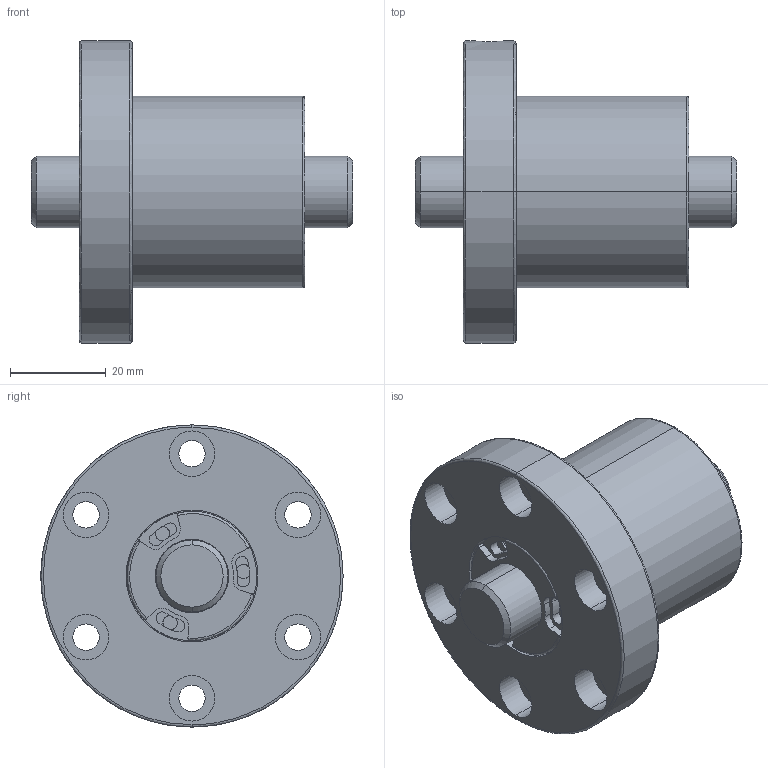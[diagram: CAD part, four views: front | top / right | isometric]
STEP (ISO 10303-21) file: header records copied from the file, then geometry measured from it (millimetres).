
FILE_DESCRIPTION (( 'STEP AP203' ), '1' );
FILE_NAME ('SFVSR01510B1N-C.STEP', '2020-06-17T04:00:11', ( '' ), ( '' ), 'SwSTEP 2.0', 'SolidWorks 2013', '' );
FILE_SCHEMA (( 'CONFIG_CONTROL_DESIGN' ));
Length unit declared in the file: millimetre
Products named in the file (1): SFVSR01510B1N-C
Bounding box: 67 x 63 x 63 mm (x, y, z)
Volume: 76891.3 mm3; surface area: 21965.5 mm2
Topology: 2 solids, 2 shells, 252 faces, 620 edges, 398 vertices
Faces by surface type: cylinder 146, plane 76, cone 16, bspline 14
Entity records: 8455 total; most frequent: CARTESIAN_POINT 2171, DIRECTION 1432, ORIENTED_EDGE 1240, EDGE_CURVE 620, AXIS2_PLACEMENT_3D 611, VERTEX_POINT 398, CIRCLE 372, EDGE_LOOP 296
